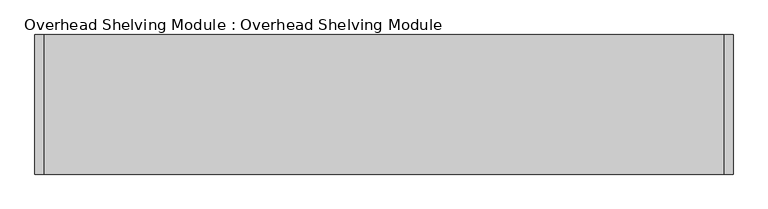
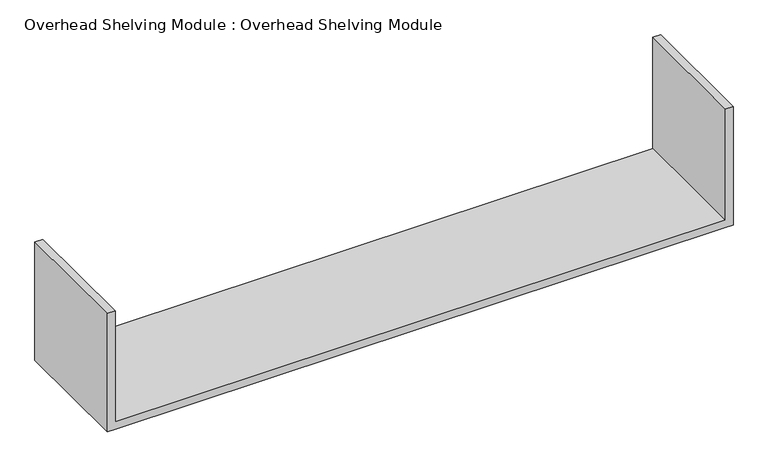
"""IFC4 building model written with IfcOpenShell, lengths in millimetres: furniture geometry, Overhead Shelving Module : Overhead Shelving Module."""

from ifc_helpers import new_model, si_unit, frame, origin, place, context, project, spatial, polyline, outline, extrude, source, transform, mapped, element, save


def overhead_shelving_module_overhead_shelving_module_3ee17988(model_context):
    return source(origin(), model_context, "Body", "SweptSolid", [
        extrude(outline(polyline([(1676.4, -919.7824704), (1371.6, -919.7824704), (1371.6, -900.7324704), (1371.6, 585.1675296), (1371.6, 604.2175296), (1676.4, 604.2175296), (1676.4, 585.1675296), (1390.65, 585.1675296), (1390.65, -900.7324704), (1676.4, -900.7324704), (1676.4, -919.7824704)])), frame((0.0, -68.6363609, 0.0), z_axis=(0.0, 1.0, 0.0), x_axis=(0.0, 0.0, 1.0)), (0.0, 0.0, 1.0), 304.8),
    ])


if __name__ == "__main__":
    model = new_model("IFC4")
    model_context = context("Model", 3, world=origin())
    ifc_project = project(units=[si_unit("LENGTHUNIT", "METRE", prefix="MILLI")], contexts=[model_context])
    site = spatial("IfcSite", under=ifc_project)
    building = spatial("IfcBuilding", under=site)
    placement = place(None, origin())
    overhead_shelving_module_overhead_shelving_module_shape = overhead_shelving_module_overhead_shelving_module_3ee17988(model_context)
    element("IfcFurniture", 1, ObjectType="Overhead Shelving Module : Overhead Shelving Module", at=placement, inside=building, context=model_context, shape_type="MappedRepresentation", body=[
        mapped(overhead_shelving_module_overhead_shelving_module_shape, transform((0.0, 0.0, 0.0), x_axis=(1.0, 0.0, 0.0), y_axis=(0.0, 1.0, 0.0), z_axis=(0.0, 0.0, 1.0))),
    ])
    save(model, "model.ifc")
